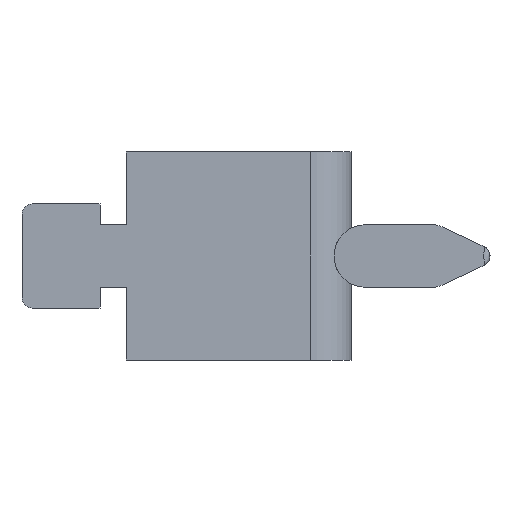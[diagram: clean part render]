
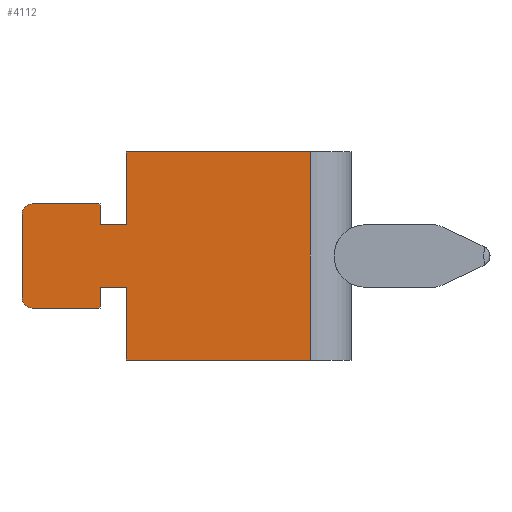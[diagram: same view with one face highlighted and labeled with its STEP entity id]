
A CAD part, left-side view. The second image highlights one B-rep face of the part: STEP entity #4112.
In plain terms, the highlighted planar face has unit normal (-1, 0, 0).
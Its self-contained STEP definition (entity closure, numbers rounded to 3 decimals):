
#4037 = EDGE_CURVE ( 'NONE', #4082, #4046, #5740, .T. ) ;
#4040 = EDGE_CURVE ( 'NONE', #4084, #4082, #5711, .T. ) ;
#4041 = ORIENTED_EDGE ( 'NONE', *, *, #4077, .F. ) ;
#4042 = ORIENTED_EDGE ( 'NONE', *, *, #4037, .F. ) ;
#4045 = ORIENTED_EDGE ( 'NONE', *, *, #4056, .F. ) ;
#4046 = VERTEX_POINT ( 'NONE', #5952 ) ;
#4055 = VERTEX_POINT ( 'NONE', #5841 ) ;
#4056 = EDGE_CURVE ( 'NONE', #4055, #4084, #5851, .T. ) ;
#4060 = ORIENTED_EDGE ( 'NONE', *, *, #4078, .T. ) ;
#4062 = ORIENTED_EDGE ( 'NONE', *, *, #4063, .F. ) ;
#4063 = EDGE_CURVE ( 'NONE', #4064, #4119, #5817, .T. ) ;
#4064 = VERTEX_POINT ( 'NONE', #5813 ) ;
#4065 = ORIENTED_EDGE ( 'NONE', *, *, #4098, .F. ) ;
#4066 = VERTEX_POINT ( 'NONE', #5812 ) ;
#4071 = VERTEX_POINT ( 'NONE', #5807 ) ;
#4073 = EDGE_CURVE ( 'NONE', #4074, #4071, #5806, .T. ) ;
#4074 = VERTEX_POINT ( 'NONE', #5802 ) ;
#4077 = EDGE_CURVE ( 'NONE', #4046, #4110, #5800, .T. ) ;
#4078 = EDGE_CURVE ( 'NONE', #4055, #4074, #5796, .T. ) ;
#4082 = VERTEX_POINT ( 'NONE', #5883 ) ;
#4083 = ORIENTED_EDGE ( 'NONE', *, *, #4040, .F. ) ;
#4084 = VERTEX_POINT ( 'NONE', #5882 ) ;
#4091 = EDGE_LOOP ( 'NONE', ( #4113, #4114, #4117, #4062, #4065, #4099, #4102, #4105, #4108, #4041, #4042, #4083, #4045, #4060 ) ) ;
#4098 = EDGE_CURVE ( 'NONE', #4066, #4064, #5783, .T. ) ;
#4099 = ORIENTED_EDGE ( 'NONE', *, *, #4100, .F. ) ;
#4100 = EDGE_CURVE ( 'NONE', #4101, #4066, #5779, .T. ) ;
#4101 = VERTEX_POINT ( 'NONE', #5775 ) ;
#4102 = ORIENTED_EDGE ( 'NONE', *, *, #4103, .T. ) ;
#4103 = EDGE_CURVE ( 'NONE', #4101, #4104, #5774, .T. ) ;
#4104 = VERTEX_POINT ( 'NONE', #5770 ) ;
#4105 = ORIENTED_EDGE ( 'NONE', *, *, #4106, .F. ) ;
#4106 = EDGE_CURVE ( 'NONE', #4107, #4104, #5980, .T. ) ;
#4107 = VERTEX_POINT ( 'NONE', #5976 ) ;
#4108 = ORIENTED_EDGE ( 'NONE', *, *, #4109, .F. ) ;
#4109 = EDGE_CURVE ( 'NONE', #4110, #4107, #5975, .T. ) ;
#4110 = VERTEX_POINT ( 'NONE', #5971 ) ;
#4112 = ADVANCED_FACE ( 'NONE', ( #5965 ), #5947, .F. ) ;
#4113 = ORIENTED_EDGE ( 'NONE', *, *, #4073, .T. ) ;
#4114 = ORIENTED_EDGE ( 'NONE', *, *, #4115, .T. ) ;
#4115 = EDGE_CURVE ( 'NONE', #4071, #4116, #5942, .T. ) ;
#4116 = VERTEX_POINT ( 'NONE', #5937 ) ;
#4117 = ORIENTED_EDGE ( 'NONE', *, *, #4118, .F. ) ;
#4118 = EDGE_CURVE ( 'NONE', #4119, #4116, #5936, .T. ) ;
#4119 = VERTEX_POINT ( 'NONE', #5932 ) ;
#5708 = DIRECTION ( 'NONE',  ( 0., 0., -1. ) ) ;
#5709 = VECTOR ( 'NONE', #5708, 1000. ) ;
#5710 = CARTESIAN_POINT ( 'NONE',  ( -24.5, 22.2, 5. ) ) ;
#5711 = LINE ( 'NONE', #5710, #5709 ) ;
#5737 = DIRECTION ( 'NONE',  ( 0., -1., 0. ) ) ;
#5738 = VECTOR ( 'NONE', #5737, 1000. ) ;
#5739 = CARTESIAN_POINT ( 'NONE',  ( -24.5, 22.2, 3. ) ) ;
#5740 = LINE ( 'NONE', #5739, #5738 ) ;
#5770 = CARTESIAN_POINT ( 'NONE',  ( -24.5, 2., -10. ) ) ;
#5771 = DIRECTION ( 'NONE',  ( 0., -1., 0. ) ) ;
#5772 = VECTOR ( 'NONE', #5771, 1000. ) ;
#5773 = CARTESIAN_POINT ( 'NONE',  ( -24.5, 2., -10. ) ) ;
#5774 = LINE ( 'NONE', #5773, #5772 ) ;
#5775 = CARTESIAN_POINT ( 'NONE',  ( -24.5, 19.7, -10. ) ) ;
#5776 = DIRECTION ( 'NONE',  ( 0., 0., 1. ) ) ;
#5777 = VECTOR ( 'NONE', #5776, 1000. ) ;
#5778 = CARTESIAN_POINT ( 'NONE',  ( -24.5, 19.7, -10. ) ) ;
#5779 = LINE ( 'NONE', #5778, #5777 ) ;
#5780 = DIRECTION ( 'NONE',  ( 0., 1., 0. ) ) ;
#5781 = VECTOR ( 'NONE', #5780, 1000. ) ;
#5782 = CARTESIAN_POINT ( 'NONE',  ( -24.5, 22.2, -3. ) ) ;
#5783 = LINE ( 'NONE', #5782, #5781 ) ;
#5792 = DIRECTION ( 'NONE',  ( 0., 0., -1. ) ) ;
#5793 = DIRECTION ( 'NONE',  ( -1., 0., 0. ) ) ;
#5794 = CARTESIAN_POINT ( 'NONE',  ( -24.5, 28.7, 4. ) ) ;
#5795 = AXIS2_PLACEMENT_3D ( 'NONE', #5794, #5793, #5792 ) ;
#5796 = CIRCLE ( 'NONE', #5795, 1. ) ;
#5797 = DIRECTION ( 'NONE',  ( 0., 0., 1. ) ) ;
#5798 = VECTOR ( 'NONE', #5797, 1000. ) ;
#5799 = CARTESIAN_POINT ( 'NONE',  ( -24.5, 19.7, 10. ) ) ;
#5800 = LINE ( 'NONE', #5799, #5798 ) ;
#5802 = CARTESIAN_POINT ( 'NONE',  ( -24.5, 29.7, 4. ) ) ;
#5803 = DIRECTION ( 'NONE',  ( 0., 0., -1. ) ) ;
#5804 = VECTOR ( 'NONE', #5803, 1000. ) ;
#5805 = CARTESIAN_POINT ( 'NONE',  ( -24.5, 29.7, 10. ) ) ;
#5806 = LINE ( 'NONE', #5805, #5804 ) ;
#5807 = CARTESIAN_POINT ( 'NONE',  ( -24.5, 29.7, -4. ) ) ;
#5812 = CARTESIAN_POINT ( 'NONE',  ( -24.5, 19.7, -3. ) ) ;
#5813 = CARTESIAN_POINT ( 'NONE',  ( -24.5, 22.2, -3. ) ) ;
#5814 = DIRECTION ( 'NONE',  ( 0., 0., -1. ) ) ;
#5815 = VECTOR ( 'NONE', #5814, 1000. ) ;
#5816 = CARTESIAN_POINT ( 'NONE',  ( -24.5, 22.2, -5. ) ) ;
#5817 = LINE ( 'NONE', #5816, #5815 ) ;
#5841 = CARTESIAN_POINT ( 'NONE',  ( -24.5, 28.7, 5. ) ) ;
#5848 = DIRECTION ( 'NONE',  ( 0., -1., 0. ) ) ;
#5849 = VECTOR ( 'NONE', #5848, 1000. ) ;
#5850 = CARTESIAN_POINT ( 'NONE',  ( -24.5, 29.7, 5. ) ) ;
#5851 = LINE ( 'NONE', #5850, #5849 ) ;
#5882 = CARTESIAN_POINT ( 'NONE',  ( -24.5, 22.2, 5. ) ) ;
#5883 = CARTESIAN_POINT ( 'NONE',  ( -24.5, 22.2, 3. ) ) ;
#5932 = CARTESIAN_POINT ( 'NONE',  ( -24.5, 22.2, -5. ) ) ;
#5933 = DIRECTION ( 'NONE',  ( 0., 1., 0. ) ) ;
#5934 = VECTOR ( 'NONE', #5933, 1000. ) ;
#5935 = CARTESIAN_POINT ( 'NONE',  ( -24.5, 29.7, -5. ) ) ;
#5936 = LINE ( 'NONE', #5935, #5934 ) ;
#5937 = CARTESIAN_POINT ( 'NONE',  ( -24.5, 28.7, -5. ) ) ;
#5938 = DIRECTION ( 'NONE',  ( 0., 0., -1. ) ) ;
#5939 = DIRECTION ( 'NONE',  ( -1., 0., 0. ) ) ;
#5940 = CARTESIAN_POINT ( 'NONE',  ( -24.5, 28.7, -4. ) ) ;
#5941 = AXIS2_PLACEMENT_3D ( 'NONE', #5940, #5939, #5938 ) ;
#5942 = CIRCLE ( 'NONE', #5941, 1. ) ;
#5943 = DIRECTION ( 'NONE',  ( 0., 0., -1. ) ) ;
#5944 = DIRECTION ( 'NONE',  ( 1., 0., 0. ) ) ;
#5945 = CARTESIAN_POINT ( 'NONE',  ( -24.5, 2., 10. ) ) ;
#5946 = AXIS2_PLACEMENT_3D ( 'NONE', #5945, #5944, #5943 ) ;
#5947 = PLANE ( 'NONE',  #5946 ) ;
#5952 = CARTESIAN_POINT ( 'NONE',  ( -24.5, 19.7, 3. ) ) ;
#5965 = FACE_OUTER_BOUND ( 'NONE', #4091, .T. ) ;
#5971 = CARTESIAN_POINT ( 'NONE',  ( -24.5, 19.7, 10. ) ) ;
#5972 = DIRECTION ( 'NONE',  ( 0., -1., 0. ) ) ;
#5973 = VECTOR ( 'NONE', #5972, 1000. ) ;
#5974 = CARTESIAN_POINT ( 'NONE',  ( -24.5, 2., 10. ) ) ;
#5975 = LINE ( 'NONE', #5974, #5973 ) ;
#5976 = CARTESIAN_POINT ( 'NONE',  ( -24.5, 2., 10. ) ) ;
#5977 = DIRECTION ( 'NONE',  ( 0., 0., -1. ) ) ;
#5978 = VECTOR ( 'NONE', #5977, 1000. ) ;
#5979 = CARTESIAN_POINT ( 'NONE',  ( -24.5, 2., 10. ) ) ;
#5980 = LINE ( 'NONE', #5979, #5978 ) ;
